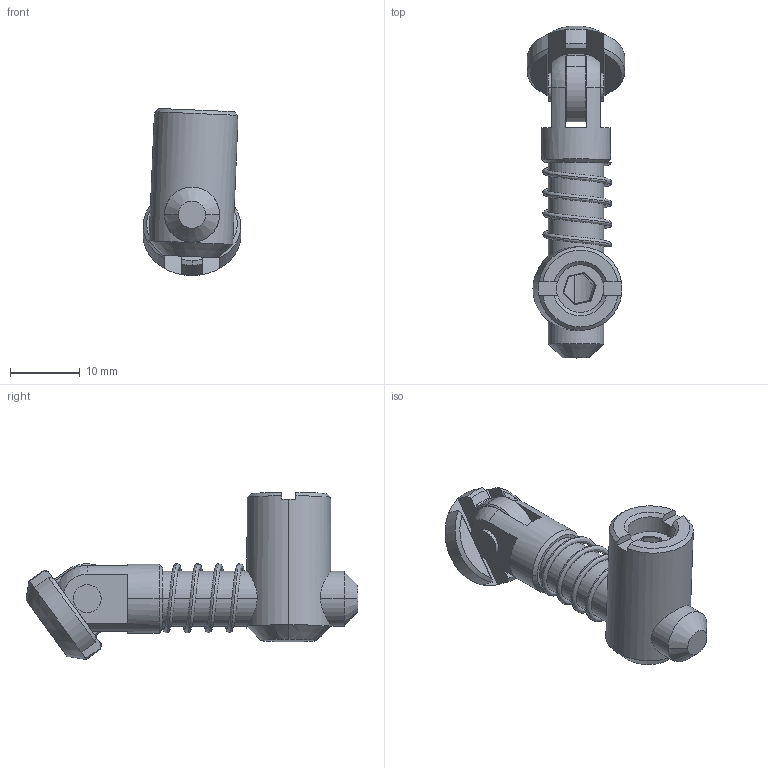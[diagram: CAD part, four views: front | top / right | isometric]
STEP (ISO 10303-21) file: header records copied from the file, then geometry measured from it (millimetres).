
FILE_DESCRIPTION (( 'STEP AP214' ), '1' );
FILE_NAME ('2.03.spoc.STEP', '2015-05-30T09:21:41', ( '' ), ( '' ), 'SwSTEP 2.0', 'SolidWorks 2015', '' );
FILE_SCHEMA (( 'AUTOMOTIVE_DESIGN' ));
Length unit declared in the file: millimetre
Products named in the file (1): 2.03.spoc
Bounding box: 14 x 47.56 x 23.94 mm (x, y, z)
Surface area: 3742 mm2 (no closed solid volume)
Topology: 0 solids, 6 shells, 98 faces, 254 edges, 166 vertices
Faces by surface type: plane 54, cylinder 20, cone 20, sphere 2, bspline 2
Entity records: 4410 total; most frequent: CARTESIAN_POINT 1981, DIRECTION 498, ORIENTED_EDGE 486, EDGE_CURVE 254, AXIS2_PLACEMENT_3D 187, VERTEX_POINT 166, LINE 124, VECTOR 124
